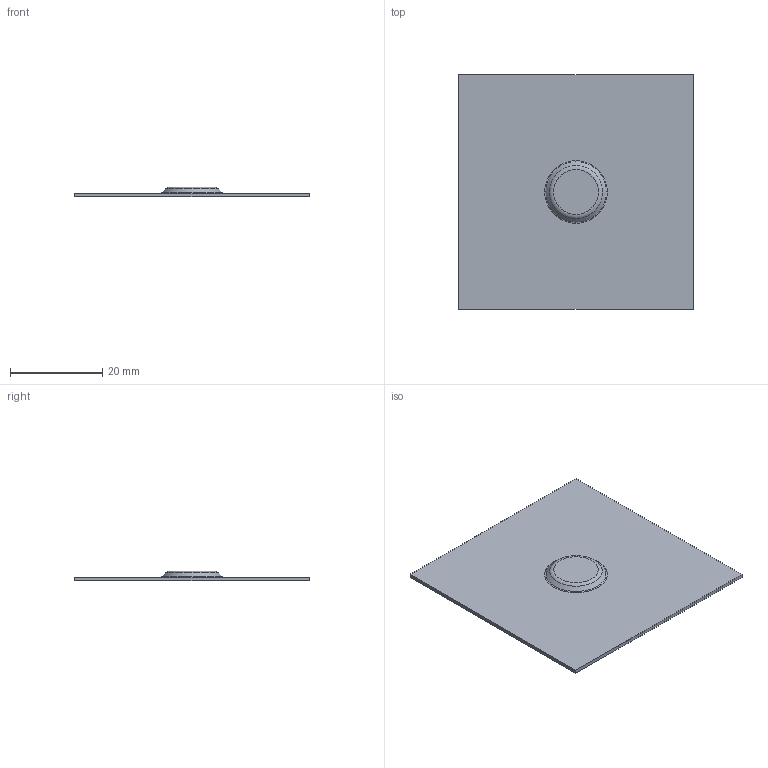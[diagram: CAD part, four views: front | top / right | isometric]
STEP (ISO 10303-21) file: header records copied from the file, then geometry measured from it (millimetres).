
FILE_DESCRIPTION((''),'1');
FILE_NAME('C:/Users/robertnolte/Desktop/WT#444249-10.stp','2012-03-29T23:26:29',(''),(''),'Spatial Interop R21 SP3','Kubotek KeyCreator 2011 V10.5.0 (24766)',' ');
FILE_SCHEMA(('CONFIG_CONTROL_DESIGN'));
Length unit declared in the file: inch
Products named in the file (1): 1
Bounding box: 50.8 x 50.8 x 2.08 mm (x, y, z)
Volume: 2111.2 mm3; surface area: 5359.9 mm2
Topology: 1 solids, 1 shells, 14 faces, 28 edges, 18 vertices
Faces by surface type: plane 8, torus 4, cone 2
Entity records: 360 total; most frequent: DIRECTION 58, CARTESIAN_POINT 51, ORIENTED_EDGE 40, AXIS2_PLACEMENT_3D 23, EDGE_LOOP 22, EDGE_CURVE 20, VERTEX_POINT 16, ADVANCED_FACE 14
